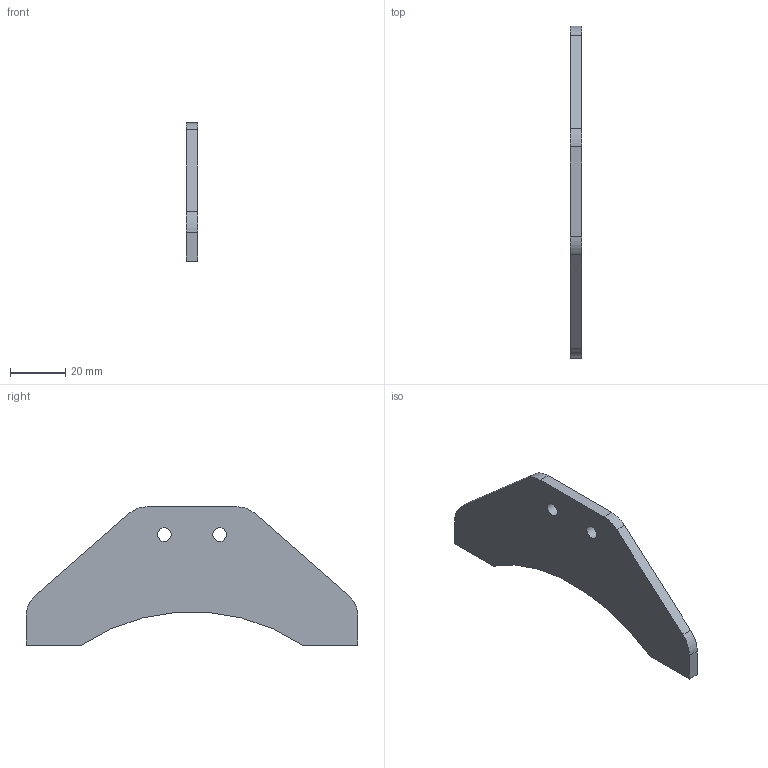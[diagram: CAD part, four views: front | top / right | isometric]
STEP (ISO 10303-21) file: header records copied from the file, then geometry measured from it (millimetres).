
FILE_DESCRIPTION(/* description */ (''),/* implementation_level */ '2;1');
FILE_NAME(/* name */ 'C:/#Projekte/Linear-Motor/STEP/foot.step',/* time_stamp */ '2019-01-06T11:26:01+01:00',/* author */ (''),/* organization */ (''),/* preprocessor_version */ 'ST-DEVELOPER v17.2',/* originating_system */ 'Autodesk Translation Framework v7.6.0.251',/* authorisation */ '');
FILE_SCHEMA (('AUTOMOTIVE_DESIGN { 1 0 10303 214 3 1 1 }'));
Length unit declared in the file: millimetre
Products named in the file (1): Stand-Füße
Bounding box: 4 x 120 x 50 mm (x, y, z)
Volume: 15577.2 mm3; surface area: 9111.6 mm2
Topology: 1 solids, 1 shells, 16 faces, 42 edges, 28 vertices
Faces by surface type: plane 9, cylinder 7
Full cylindrical faces by diameter (mm): 5 x2
Entity records: 548 total; most frequent: DIRECTION 90, CARTESIAN_POINT 87, ORIENTED_EDGE 84, EDGE_CURVE 42, AXIS2_PLACEMENT_3D 31, LINE 28, VECTOR 28, VERTEX_POINT 28
